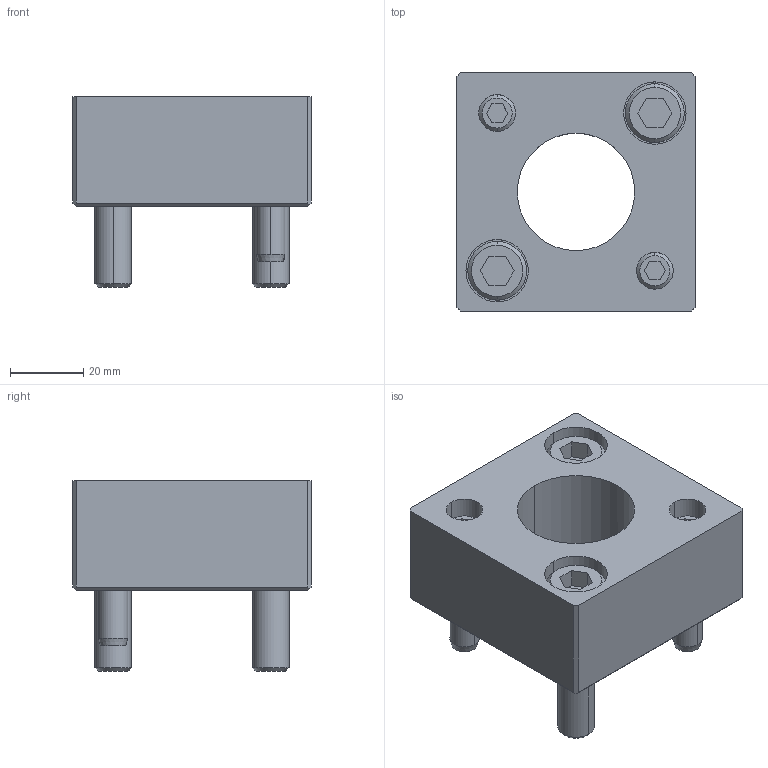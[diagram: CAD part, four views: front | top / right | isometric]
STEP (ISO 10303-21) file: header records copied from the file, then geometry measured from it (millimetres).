
FILE_DESCRIPTION(/* description */ (''),/* implementation_level */ '2;1');
FILE_NAME(/* name */ '3d_mpsr32_04609_r00.stp',/* time_stamp */ '2011-01-10T14:13:28+09:00',/* author */ ('MISUMI'),/* organization */ (''),/* preprocessor_version */ 'ST-DEVELOPER v11',/* originating_system */ 'UGS - NX 5.0',/* authorisation */ '');
FILE_SCHEMA (('CONFIG_CONTROL_DESIGN'));
Length unit declared in the file: millimetre
Products named in the file (1): 3d_mpsr32_04609_r00
Bounding box: 65 x 65 x 52 mm (x, y, z)
Volume: 102293.3 mm3; surface area: 28611.5 mm2
Topology: 7 solids, 7 shells, 139 faces, 306 edges, 196 vertices
Faces by surface type: plane 67, cylinder 46, cone 26
Entity records: 3950 total; most frequent: DIRECTION 698, CARTESIAN_POINT 684, ORIENTED_EDGE 612, EDGE_CURVE 306, AXIS2_PLACEMENT_3D 258, VERTEX_POINT 196, LINE 182, VECTOR 182
